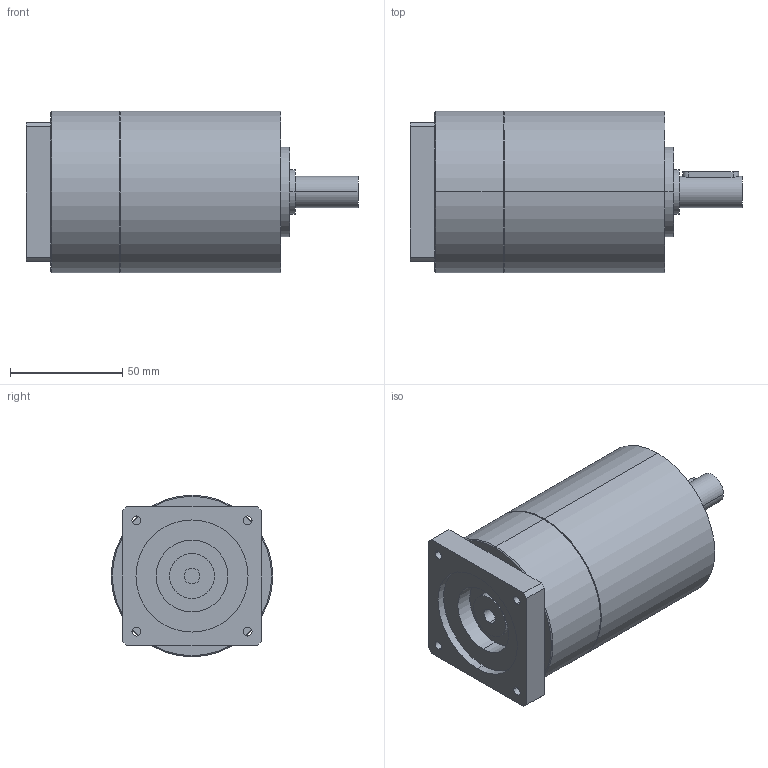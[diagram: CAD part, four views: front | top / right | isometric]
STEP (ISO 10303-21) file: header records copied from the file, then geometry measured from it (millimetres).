
FILE_DESCRIPTION(('CoCreate Modeling STEP Export'),'2;1');
FILE_NAME('GPT75_ig-9-12-16-20-25-28-35-40-50-70-100_14_B14T_7_P31.stp','2014-08-27T13:23:38',(''),(''),'CoCreate Modeling STEP processor for AP214 (Solid Model)','CoCreate Modeling 16.00C 25-Feb-2009 (C) Parametric Technology GmbH','');
FILE_SCHEMA(('AUTOMOTIVE_DESIGN { 1 0 10303 214 1 1 1 1 }'));
Length unit declared in the file: millimetre
Products named in the file (2): GPT75_ig-9-12-16-20-25-28-35-40-50-70-100_14_B14T_7_P31
Assembly tree (1 placements, depth 2):
  GPT75_ig-9-12-16-20-25-28-35-40-50-70-100_14_B14T_7_P31
    GPT75_ig-9-12-16-20-25-28-35-40-50-70-100_14_B14T_7_P31
Bounding box: 148 x 72 x 72 mm (x, y, z)
Volume: 455245.9 mm3; surface area: 40278.6 mm2
Topology: 1 solids, 1 shells, 80 faces, 198 edges, 129 vertices
Faces by surface type: cylinder 42, plane 34, cone 4
Entity records: 2353 total; most frequent: CARTESIAN_POINT 689, ORIENTED_EDGE 396, DIRECTION 276, EDGE_CURVE 198, VERTEX_POINT 129, AXIS2_PLACEMENT_3D 104, EDGE_LOOP 97, FACE_OUTER_BOUND 80
